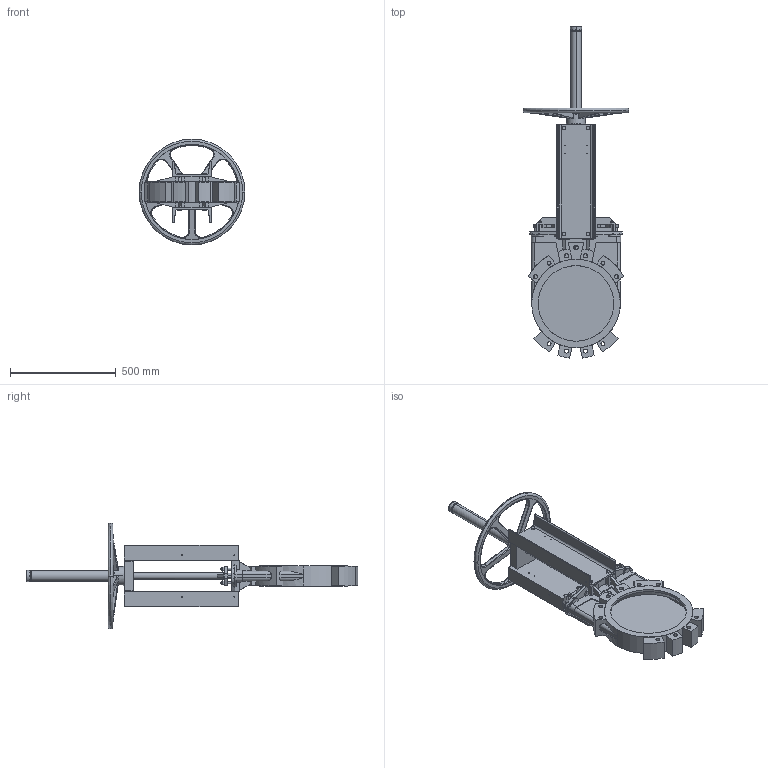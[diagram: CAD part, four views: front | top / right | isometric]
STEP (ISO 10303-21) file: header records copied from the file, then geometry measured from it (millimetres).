
FILE_DESCRIPTION (( 'STEP AP203' ), '1' );
FILE_NAME ('VG DN350.STEP', '2010-01-28T07:11:36', ( 'farex' ), ( '' ), 'SwSTEP 2.0', 'SolidWorks 2009', '' );
FILE_SCHEMA (( 'CONFIG_CONTROL_DESIGN' ));
Products named in the file (1): VG DN350
Bounding box: 500 x 1571.72 x 500 mm (x, y, z)
Volume: 17606231.9 mm3; surface area: 2189894.7 mm2
Topology: 1 solids, 3 shells, 1095 faces, 2844 edges, 1819 vertices
Faces by surface type: plane 565, cylinder 296, bspline 93, cone 85, torus 56
Entity records: 41552 total; most frequent: CARTESIAN_POINT 14796, ORIENTED_EDGE 5688, DIRECTION 5421, EDGE_CURVE 2844, AXIS2_PLACEMENT_3D 1924, VERTEX_POINT 1819, VECTOR 1573, LINE 1573
